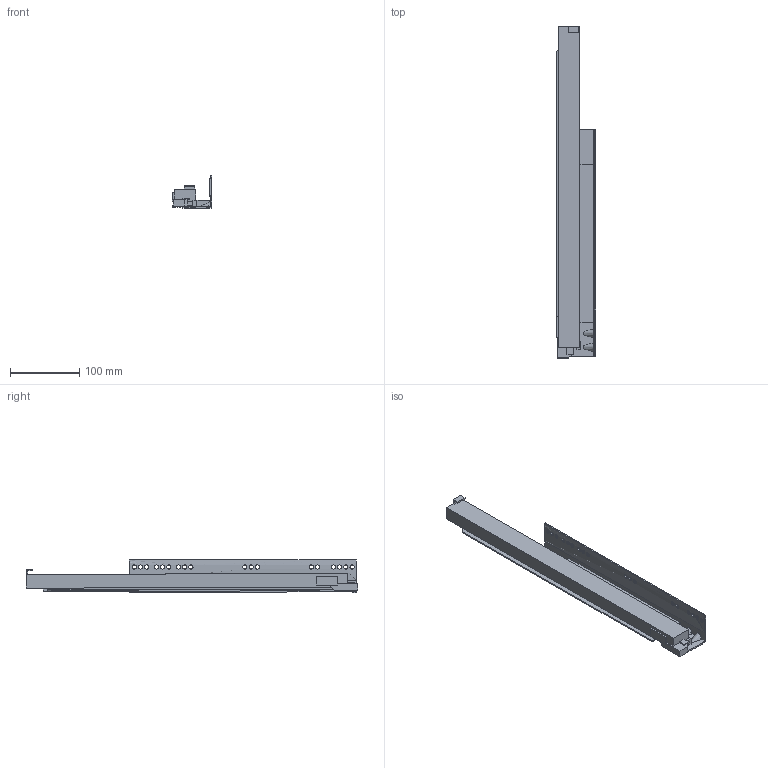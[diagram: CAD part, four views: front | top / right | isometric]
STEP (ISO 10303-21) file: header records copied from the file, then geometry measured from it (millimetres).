
FILE_DESCRIPTION (( 'STEP AP214' ), '1' );
FILE_NAME ('_IMOS_Dynapro_Softclose_D516_NL_480_RE.step', '2010-07-16T06:03:44', ( 'grass' ), ( '' ), 'SwSTEP 2.0', 'SolidWorks 2009', '' );
FILE_SCHEMA (( 'AUTOMOTIVE_DESIGN' ));
Length unit declared in the file: millimetre
Products named in the file (1): _IMOS_Dynapro_Softclose_D516_NL_480_RE
Bounding box: 57.08 x 480.07 x 47.86 mm (x, y, z)
Volume: 418126.2 mm3; surface area: 133884.4 mm2
Topology: 1 solids, 1 shells, 120 faces, 409 edges, 287 vertices
Faces by surface type: plane 77, cylinder 36, bspline 7
Entity records: 5269 total; most frequent: CARTESIAN_POINT 1531, ORIENTED_EDGE 810, DIRECTION 723, EDGE_CURVE 405, LINE 309, VECTOR 309, VERTEX_POINT 287, AXIS2_PLACEMENT_3D 207
